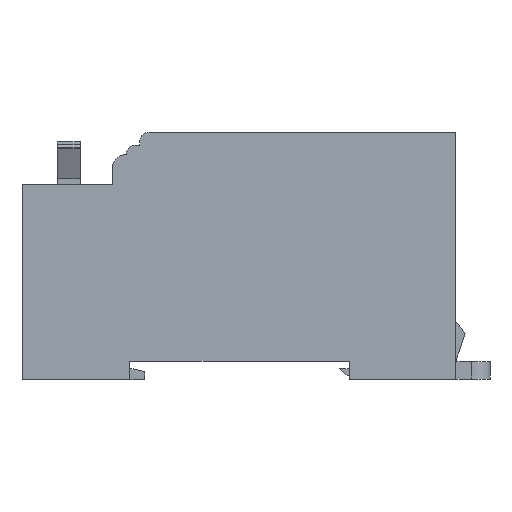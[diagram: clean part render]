
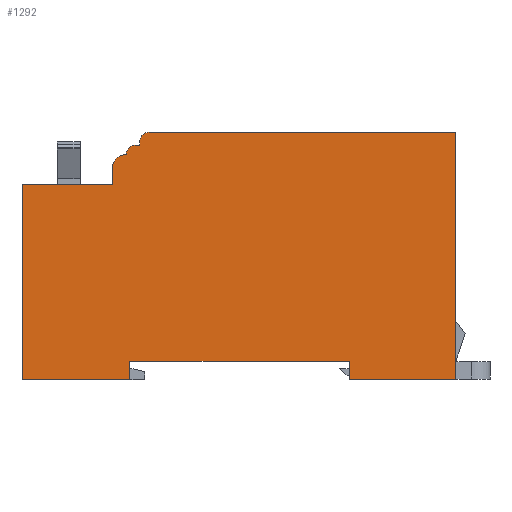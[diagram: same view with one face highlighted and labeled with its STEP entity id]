
A CAD part, front view. The second image highlights one B-rep face of the part: STEP entity #1292.
In plain terms, the highlighted planar face has unit normal (0, -1, 0).
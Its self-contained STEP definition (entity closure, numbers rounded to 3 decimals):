
#112=CIRCLE('',#18462,1.5);
#113=CIRCLE('',#18463,1.5);
#114=CIRCLE('',#18464,2.1);
#401=PLANE('',#18465);
#1292=ADVANCED_FACE('',(#2321),#401,.T.);
#2321=FACE_OUTER_BOUND('',#3272,.T.);
#3272=EDGE_LOOP('',(#9272,#9273,#9274,#9275,#9276,#9277,#9278,#9279,#9280,
#9281,#9282,#9283,#9284,#9285,#9286,#9287));
#4435=LINE('',#24507,#6820);
#4459=LINE('',#24556,#6844);
#4480=LINE('',#24599,#6865);
#4485=LINE('',#24608,#6870);
#4486=LINE('',#24610,#6871);
#4487=LINE('',#24614,#6872);
#4488=LINE('',#24616,#6873);
#4489=LINE('',#24620,#6874);
#4490=LINE('',#24624,#6875);
#4491=LINE('',#24625,#6876);
#4492=LINE('',#24626,#6877);
#4493=LINE('',#24628,#6878);
#4494=LINE('',#24630,#6879);
#6820=VECTOR('',#19757,1.);
#6844=VECTOR('',#19787,1.);
#6865=VECTOR('',#19812,1.);
#6870=VECTOR('',#19821,1.);
#6871=VECTOR('',#19822,1.);
#6872=VECTOR('',#19825,1.);
#6873=VECTOR('',#19826,1.);
#6874=VECTOR('',#19829,1.);
#6875=VECTOR('',#19832,1.);
#6876=VECTOR('',#19833,1.);
#6877=VECTOR('',#19834,1.);
#6878=VECTOR('',#19835,1.);
#6879=VECTOR('',#19836,1.);
#9272=ORIENTED_EDGE('',*,*,#16051,.T.);
#9273=ORIENTED_EDGE('',*,*,#16052,.F.);
#9274=ORIENTED_EDGE('',*,*,#16053,.F.);
#9275=ORIENTED_EDGE('',*,*,#16054,.F.);
#9276=ORIENTED_EDGE('',*,*,#16055,.T.);
#9277=ORIENTED_EDGE('',*,*,#16056,.T.);
#9278=ORIENTED_EDGE('',*,*,#16057,.F.);
#9279=ORIENTED_EDGE('',*,*,#16058,.T.);
#9280=ORIENTED_EDGE('',*,*,#16059,.F.);
#9281=ORIENTED_EDGE('',*,*,#16025,.T.);
#9282=ORIENTED_EDGE('',*,*,#16060,.F.);
#9283=ORIENTED_EDGE('',*,*,#16046,.T.);
#9284=ORIENTED_EDGE('',*,*,#16061,.T.);
#9285=ORIENTED_EDGE('',*,*,#16062,.T.);
#9286=ORIENTED_EDGE('',*,*,#16063,.F.);
#9287=ORIENTED_EDGE('',*,*,#16001,.T.);
#14323=VERTEX_POINT('',#24508);
#14324=VERTEX_POINT('',#24509);
#14337=VERTEX_POINT('',#24540);
#14344=VERTEX_POINT('',#24555);
#14364=VERTEX_POINT('',#24598);
#14365=VERTEX_POINT('',#24600);
#14367=VERTEX_POINT('',#24609);
#14368=VERTEX_POINT('',#24611);
#14369=VERTEX_POINT('',#24613);
#14370=VERTEX_POINT('',#24615);
#14371=VERTEX_POINT('',#24617);
#14372=VERTEX_POINT('',#24619);
#14373=VERTEX_POINT('',#24621);
#14374=VERTEX_POINT('',#24623);
#14375=VERTEX_POINT('',#24627);
#14376=VERTEX_POINT('',#24629);
#16001=EDGE_CURVE('',#14323,#14324,#4435,.T.);
#16025=EDGE_CURVE('',#14337,#14344,#4459,.T.);
#16046=EDGE_CURVE('',#14365,#14364,#4480,.T.);
#16051=EDGE_CURVE('',#14324,#14367,#4485,.T.);
#16052=EDGE_CURVE('',#14368,#14367,#4486,.T.);
#16053=EDGE_CURVE('',#14369,#14368,#112,.T.);
#16054=EDGE_CURVE('',#14370,#14369,#4487,.T.);
#16055=EDGE_CURVE('',#14370,#14371,#4488,.T.);
#16056=EDGE_CURVE('',#14371,#14372,#113,.T.);
#16057=EDGE_CURVE('',#14373,#14372,#4489,.T.);
#16058=EDGE_CURVE('',#14373,#14374,#114,.T.);
#16059=EDGE_CURVE('',#14337,#14374,#4490,.T.);
#16060=EDGE_CURVE('',#14365,#14344,#4491,.T.);
#16061=EDGE_CURVE('',#14364,#14375,#4492,.T.);
#16062=EDGE_CURVE('',#14375,#14376,#4493,.T.);
#16063=EDGE_CURVE('',#14323,#14376,#4494,.T.);
#18462=AXIS2_PLACEMENT_3D('',#24612,#19823,#19824);
#18463=AXIS2_PLACEMENT_3D('',#24618,#19827,#19828);
#18464=AXIS2_PLACEMENT_3D('',#24622,#19830,#19831);
#18465=AXIS2_PLACEMENT_3D('',#24631,#19837,#19838);
#19757=DIRECTION('',(1.,0.,0.));
#19787=DIRECTION('',(-1.,0.,0.));
#19812=DIRECTION('',(1.,0.,0.));
#19821=DIRECTION('',(0.,0.,1.));
#19822=DIRECTION('',(1.,0.,0.));
#19823=DIRECTION('',(0.,1.,0.));
#19824=DIRECTION('',(-1.,0.,0.));
#19825=DIRECTION('',(0.,0.,1.));
#19826=DIRECTION('',(-1.,0.,0.));
#19827=DIRECTION('',(0.,-1.,0.));
#19828=DIRECTION('',(0.,0.,-1.));
#19829=DIRECTION('',(1.,0.,0.));
#19830=DIRECTION('',(0.,-1.,0.));
#19831=DIRECTION('',(0.,0.,-1.));
#19832=DIRECTION('',(0.,0.,1.));
#19833=DIRECTION('',(0.,0.,1.));
#19834=DIRECTION('',(0.,0.,1.));
#19835=DIRECTION('',(1.,0.,0.));
#19836=DIRECTION('',(0.,0.,1.));
#19837=DIRECTION('',(0.,-1.,0.));
#19838=DIRECTION('',(0.,0.,1.));
#24507=CARTESIAN_POINT('',(-2.75,-74.55,0.));
#24508=CARTESIAN_POINT('',(15.05,-74.55,0.));
#24509=CARTESIAN_POINT('',(32.25,-74.55,0.));
#24540=CARTESIAN_POINT('',(-23.15,-74.55,31.5));
#24555=CARTESIAN_POINT('',(-37.75,-74.55,31.5));
#24556=CARTESIAN_POINT('',(-2.75,-74.55,31.5));
#24598=CARTESIAN_POINT('',(-20.35,-74.55,0.));
#24599=CARTESIAN_POINT('',(-2.75,-74.55,0.));
#24600=CARTESIAN_POINT('',(-37.75,-74.55,0.));
#24608=CARTESIAN_POINT('',(32.25,-74.55,0.));
#24609=CARTESIAN_POINT('',(32.25,-74.55,39.9));
#24610=CARTESIAN_POINT('',(-17.25,-74.55,39.9));
#24611=CARTESIAN_POINT('',(-17.25,-74.55,39.9));
#24612=CARTESIAN_POINT('',(-17.25,-74.55,38.4));
#24613=CARTESIAN_POINT('',(-18.75,-74.55,38.4));
#24614=CARTESIAN_POINT('',(-18.75,-74.55,36.3));
#24615=CARTESIAN_POINT('',(-18.75,-74.55,37.8));
#24616=CARTESIAN_POINT('',(-19.85,-74.55,37.8));
#24617=CARTESIAN_POINT('',(-19.45,-74.55,37.8));
#24618=CARTESIAN_POINT('',(-19.45,-74.55,36.3));
#24619=CARTESIAN_POINT('',(-20.95,-74.55,36.3));
#24620=CARTESIAN_POINT('',(-21.15,-74.55,36.3));
#24621=CARTESIAN_POINT('',(-21.05,-74.55,36.3));
#24622=CARTESIAN_POINT('',(-21.05,-74.55,34.2));
#24623=CARTESIAN_POINT('',(-23.15,-74.55,34.2));
#24624=CARTESIAN_POINT('',(-23.15,-74.55,17.821));
#24625=CARTESIAN_POINT('',(-37.75,-74.55,0.));
#24626=CARTESIAN_POINT('',(-20.35,-74.55,0.));
#24627=CARTESIAN_POINT('',(-20.35,-74.55,3.));
#24628=CARTESIAN_POINT('',(-2.75,-74.55,3.));
#24629=CARTESIAN_POINT('',(15.05,-74.55,3.));
#24630=CARTESIAN_POINT('',(15.05,-74.55,0.));
#24631=CARTESIAN_POINT('',(-2.75,-74.55,0.));
